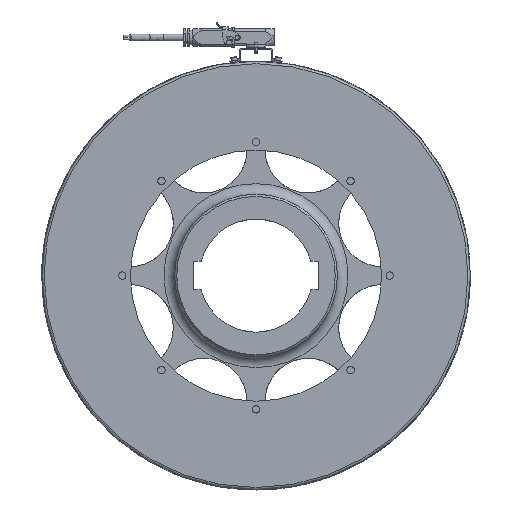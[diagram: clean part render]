
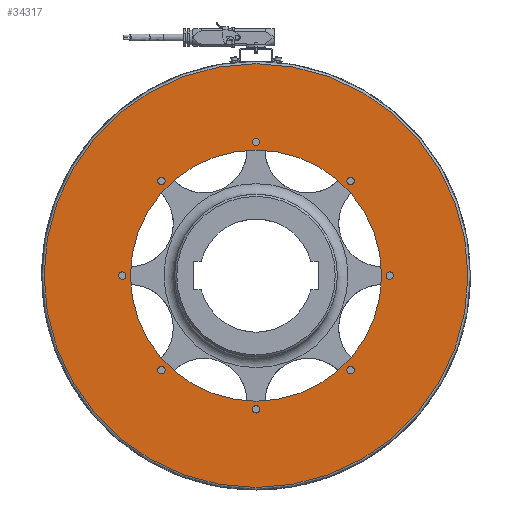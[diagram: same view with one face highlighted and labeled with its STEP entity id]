
A CAD part, left-side view. The second image highlights one B-rep face of the part: STEP entity #34317.
In plain terms, the highlighted planar face has unit normal (-1, 0, 0).
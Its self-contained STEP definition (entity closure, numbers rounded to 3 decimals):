
#405=FACE_BOUND('',#4574,.T.);
#406=FACE_BOUND('',#4575,.T.);
#407=FACE_BOUND('',#4576,.T.);
#408=FACE_BOUND('',#4577,.T.);
#409=FACE_BOUND('',#4578,.T.);
#410=FACE_BOUND('',#4579,.T.);
#411=FACE_BOUND('',#4580,.T.);
#412=FACE_BOUND('',#4581,.T.);
#413=FACE_BOUND('',#4582,.T.);
#1332=PLANE('',#36576);
#2751=FACE_OUTER_BOUND('',#4573,.T.);
#4573=EDGE_LOOP('',(#26811,#26812));
#4574=EDGE_LOOP('',(#26813,#26814));
#4575=EDGE_LOOP('',(#26815,#26816));
#4576=EDGE_LOOP('',(#26817,#26818));
#4577=EDGE_LOOP('',(#26819,#26820));
#4578=EDGE_LOOP('',(#26821,#26822));
#4579=EDGE_LOOP('',(#26823,#26824));
#4580=EDGE_LOOP('',(#26825,#26826));
#4581=EDGE_LOOP('',(#26827,#26828));
#4582=EDGE_LOOP('',(#26829,#26830));
#5959=CIRCLE('',#36577,299.5);
#5960=CIRCLE('',#36578,299.5);
#5961=CIRCLE('',#36579,5.25);
#5962=CIRCLE('',#36580,5.25);
#5963=CIRCLE('',#36581,5.25);
#5964=CIRCLE('',#36582,5.25);
#5965=CIRCLE('',#36583,5.25);
#5966=CIRCLE('',#36584,5.25);
#5967=CIRCLE('',#36585,5.25);
#5968=CIRCLE('',#36586,5.25);
#5969=CIRCLE('',#36587,5.25);
#5970=CIRCLE('',#36588,5.25);
#5971=CIRCLE('',#36589,5.25);
#5972=CIRCLE('',#36590,5.25);
#5973=CIRCLE('',#36591,5.25);
#5974=CIRCLE('',#36592,5.25);
#5975=CIRCLE('',#36593,5.25);
#5976=CIRCLE('',#36594,5.25);
#5977=CIRCLE('',#36595,177.5);
#5978=CIRCLE('',#36596,177.5);
#14878=VERTEX_POINT('',#55100);
#14879=VERTEX_POINT('',#55101);
#14880=VERTEX_POINT('',#55104);
#14881=VERTEX_POINT('',#55105);
#14882=VERTEX_POINT('',#55108);
#14883=VERTEX_POINT('',#55109);
#14884=VERTEX_POINT('',#55112);
#14885=VERTEX_POINT('',#55113);
#14886=VERTEX_POINT('',#55116);
#14887=VERTEX_POINT('',#55117);
#14888=VERTEX_POINT('',#55120);
#14889=VERTEX_POINT('',#55121);
#14890=VERTEX_POINT('',#55124);
#14891=VERTEX_POINT('',#55125);
#14892=VERTEX_POINT('',#55128);
#14893=VERTEX_POINT('',#55129);
#14894=VERTEX_POINT('',#55132);
#14895=VERTEX_POINT('',#55133);
#14896=VERTEX_POINT('',#55136);
#14897=VERTEX_POINT('',#55137);
#19096=EDGE_CURVE('',#14878,#14879,#5959,.T.);
#19097=EDGE_CURVE('',#14879,#14878,#5960,.T.);
#19098=EDGE_CURVE('',#14880,#14881,#5961,.T.);
#19099=EDGE_CURVE('',#14881,#14880,#5962,.T.);
#19100=EDGE_CURVE('',#14882,#14883,#5963,.T.);
#19101=EDGE_CURVE('',#14883,#14882,#5964,.T.);
#19102=EDGE_CURVE('',#14884,#14885,#5965,.T.);
#19103=EDGE_CURVE('',#14885,#14884,#5966,.T.);
#19104=EDGE_CURVE('',#14886,#14887,#5967,.T.);
#19105=EDGE_CURVE('',#14887,#14886,#5968,.T.);
#19106=EDGE_CURVE('',#14888,#14889,#5969,.T.);
#19107=EDGE_CURVE('',#14889,#14888,#5970,.T.);
#19108=EDGE_CURVE('',#14890,#14891,#5971,.T.);
#19109=EDGE_CURVE('',#14891,#14890,#5972,.T.);
#19110=EDGE_CURVE('',#14892,#14893,#5973,.T.);
#19111=EDGE_CURVE('',#14893,#14892,#5974,.T.);
#19112=EDGE_CURVE('',#14894,#14895,#5975,.T.);
#19113=EDGE_CURVE('',#14895,#14894,#5976,.T.);
#19114=EDGE_CURVE('',#14896,#14897,#5977,.T.);
#19115=EDGE_CURVE('',#14897,#14896,#5978,.T.);
#26811=ORIENTED_EDGE('',*,*,#19096,.F.);
#26812=ORIENTED_EDGE('',*,*,#19097,.F.);
#26813=ORIENTED_EDGE('',*,*,#19098,.T.);
#26814=ORIENTED_EDGE('',*,*,#19099,.T.);
#26815=ORIENTED_EDGE('',*,*,#19100,.T.);
#26816=ORIENTED_EDGE('',*,*,#19101,.T.);
#26817=ORIENTED_EDGE('',*,*,#19102,.T.);
#26818=ORIENTED_EDGE('',*,*,#19103,.T.);
#26819=ORIENTED_EDGE('',*,*,#19104,.T.);
#26820=ORIENTED_EDGE('',*,*,#19105,.T.);
#26821=ORIENTED_EDGE('',*,*,#19106,.T.);
#26822=ORIENTED_EDGE('',*,*,#19107,.T.);
#26823=ORIENTED_EDGE('',*,*,#19108,.T.);
#26824=ORIENTED_EDGE('',*,*,#19109,.T.);
#26825=ORIENTED_EDGE('',*,*,#19110,.T.);
#26826=ORIENTED_EDGE('',*,*,#19111,.T.);
#26827=ORIENTED_EDGE('',*,*,#19112,.T.);
#26828=ORIENTED_EDGE('',*,*,#19113,.T.);
#26829=ORIENTED_EDGE('',*,*,#19114,.F.);
#26830=ORIENTED_EDGE('',*,*,#19115,.F.);
#34317=ADVANCED_FACE('',(#2751,#405,#406,#407,#408,#409,#410,#411,#412,
#413),#1332,.T.);
#36576=AXIS2_PLACEMENT_3D('',#55099,#43710,#43711);
#36577=AXIS2_PLACEMENT_3D('',#55102,#43712,#43713);
#36578=AXIS2_PLACEMENT_3D('',#55103,#43714,#43715);
#36579=AXIS2_PLACEMENT_3D('',#55106,#43716,#43717);
#36580=AXIS2_PLACEMENT_3D('',#55107,#43718,#43719);
#36581=AXIS2_PLACEMENT_3D('',#55110,#43720,#43721);
#36582=AXIS2_PLACEMENT_3D('',#55111,#43722,#43723);
#36583=AXIS2_PLACEMENT_3D('',#55114,#43724,#43725);
#36584=AXIS2_PLACEMENT_3D('',#55115,#43726,#43727);
#36585=AXIS2_PLACEMENT_3D('',#55118,#43728,#43729);
#36586=AXIS2_PLACEMENT_3D('',#55119,#43730,#43731);
#36587=AXIS2_PLACEMENT_3D('',#55122,#43732,#43733);
#36588=AXIS2_PLACEMENT_3D('',#55123,#43734,#43735);
#36589=AXIS2_PLACEMENT_3D('',#55126,#43736,#43737);
#36590=AXIS2_PLACEMENT_3D('',#55127,#43738,#43739);
#36591=AXIS2_PLACEMENT_3D('',#55130,#43740,#43741);
#36592=AXIS2_PLACEMENT_3D('',#55131,#43742,#43743);
#36593=AXIS2_PLACEMENT_3D('',#55134,#43744,#43745);
#36594=AXIS2_PLACEMENT_3D('',#55135,#43746,#43747);
#36595=AXIS2_PLACEMENT_3D('',#55138,#43748,#43749);
#36596=AXIS2_PLACEMENT_3D('',#55139,#43750,#43751);
#43710=DIRECTION('center_axis',(-1.,0.,0.));
#43711=DIRECTION('ref_axis',(0.,0.,
1.));
#43712=DIRECTION('center_axis',(1.,0.,0.));
#43713=DIRECTION('ref_axis',(0.,-1.,0.));
#43714=DIRECTION('center_axis',(1.,0.,0.));
#43715=DIRECTION('ref_axis',(0.,-1.,0.));
#43716=DIRECTION('center_axis',(1.,0.,0.));
#43717=DIRECTION('ref_axis',(0.,0.,
1.));
#43718=DIRECTION('center_axis',(1.,0.,0.));
#43719=DIRECTION('ref_axis',(0.,0.,
1.));
#43720=DIRECTION('center_axis',(1.,0.,0.));
#43721=DIRECTION('ref_axis',(0.,0.,
1.));
#43722=DIRECTION('center_axis',(1.,0.,0.));
#43723=DIRECTION('ref_axis',(0.,0.,
1.));
#43724=DIRECTION('center_axis',(1.,0.,0.));
#43725=DIRECTION('ref_axis',(0.,0.,
1.));
#43726=DIRECTION('center_axis',(1.,0.,0.));
#43727=DIRECTION('ref_axis',(0.,0.,
1.));
#43728=DIRECTION('center_axis',(1.,0.,0.));
#43729=DIRECTION('ref_axis',(0.,0.,
1.));
#43730=DIRECTION('center_axis',(1.,0.,0.));
#43731=DIRECTION('ref_axis',(0.,0.,
1.));
#43732=DIRECTION('center_axis',(1.,0.,0.));
#43733=DIRECTION('ref_axis',(0.,0.,
1.));
#43734=DIRECTION('center_axis',(1.,0.,0.));
#43735=DIRECTION('ref_axis',(0.,0.,
1.));
#43736=DIRECTION('center_axis',(1.,0.,0.));
#43737=DIRECTION('ref_axis',(0.,0.,
1.));
#43738=DIRECTION('center_axis',(1.,0.,0.));
#43739=DIRECTION('ref_axis',(0.,0.,
1.));
#43740=DIRECTION('center_axis',(1.,0.,0.));
#43741=DIRECTION('ref_axis',(0.,0.,
1.));
#43742=DIRECTION('center_axis',(1.,0.,0.));
#43743=DIRECTION('ref_axis',(0.,0.,
1.));
#43744=DIRECTION('center_axis',(1.,0.,0.));
#43745=DIRECTION('ref_axis',(0.,0.,
1.));
#43746=DIRECTION('center_axis',(1.,0.,0.));
#43747=DIRECTION('ref_axis',(0.,0.,
1.));
#43748=DIRECTION('center_axis',(-1.,0.,0.));
#43749=DIRECTION('ref_axis',(0.,1.,0.));
#43750=DIRECTION('center_axis',(-1.,0.,0.));
#43751=DIRECTION('ref_axis',(0.,1.,0.));
#55099=CARTESIAN_POINT('Origin',(-39.2,240.,0.));
#55100=CARTESIAN_POINT('',(-39.2,299.5,0.));
#55101=CARTESIAN_POINT('',(-39.2,0.,-299.5));
#55102=CARTESIAN_POINT('Origin',(-39.2,0.,
0.));
#55103=CARTESIAN_POINT('Origin',(-39.2,0.,
0.));
#55104=CARTESIAN_POINT('',(-39.2,-189.,5.25));
#55105=CARTESIAN_POINT('',(-39.2,-189.,-5.25));
#55106=CARTESIAN_POINT('Origin',(-39.2,-189.,0.));
#55107=CARTESIAN_POINT('Origin',(-39.2,-189.,0.));
#55108=CARTESIAN_POINT('',(-39.2,0.,-183.75));
#55109=CARTESIAN_POINT('',(-39.2,0.,-194.25));
#55110=CARTESIAN_POINT('Origin',(-39.2,0.,
-189.));
#55111=CARTESIAN_POINT('Origin',(-39.2,0.,
-189.));
#55112=CARTESIAN_POINT('',(-39.2,189.,5.25));
#55113=CARTESIAN_POINT('',(-39.2,189.,-5.25));
#55114=CARTESIAN_POINT('Origin',(-39.2,189.,0.));
#55115=CARTESIAN_POINT('Origin',(-39.2,189.,0.));
#55116=CARTESIAN_POINT('',(-39.2,0.,194.25));
#55117=CARTESIAN_POINT('',(-39.2,0.,183.75));
#55118=CARTESIAN_POINT('Origin',(-39.2,0.,
189.));
#55119=CARTESIAN_POINT('Origin',(-39.2,0.,
189.));
#55120=CARTESIAN_POINT('',(-39.2,133.643,138.893));
#55121=CARTESIAN_POINT('',(-39.2,133.643,128.393));
#55122=CARTESIAN_POINT('Origin',(-39.2,133.643,133.643));
#55123=CARTESIAN_POINT('Origin',(-39.2,133.643,133.643));
#55124=CARTESIAN_POINT('',(-39.2,133.643,-128.393));
#55125=CARTESIAN_POINT('',(-39.2,133.643,-138.893));
#55126=CARTESIAN_POINT('Origin',(-39.2,133.643,-133.643));
#55127=CARTESIAN_POINT('Origin',(-39.2,133.643,-133.643));
#55128=CARTESIAN_POINT('',(-39.2,-133.643,-128.393));
#55129=CARTESIAN_POINT('',(-39.2,-133.643,-138.893));
#55130=CARTESIAN_POINT('Origin',(-39.2,-133.643,-133.643));
#55131=CARTESIAN_POINT('Origin',(-39.2,-133.643,-133.643));
#55132=CARTESIAN_POINT('',(-39.2,-133.643,138.893));
#55133=CARTESIAN_POINT('',(-39.2,-133.643,128.393));
#55134=CARTESIAN_POINT('Origin',(-39.2,-133.643,133.643));
#55135=CARTESIAN_POINT('Origin',(-39.2,-133.643,133.643));
#55136=CARTESIAN_POINT('',(-39.2,177.5,0.));
#55137=CARTESIAN_POINT('',(-39.2,-177.5,0.));
#55138=CARTESIAN_POINT('Origin',(-39.2,0.,
0.));
#55139=CARTESIAN_POINT('Origin',(-39.2,0.,
0.));
